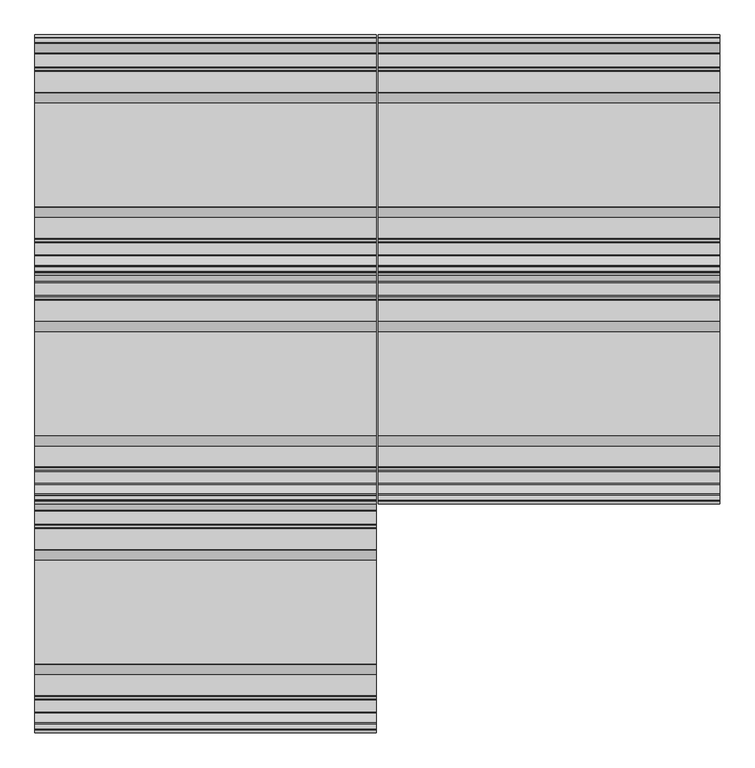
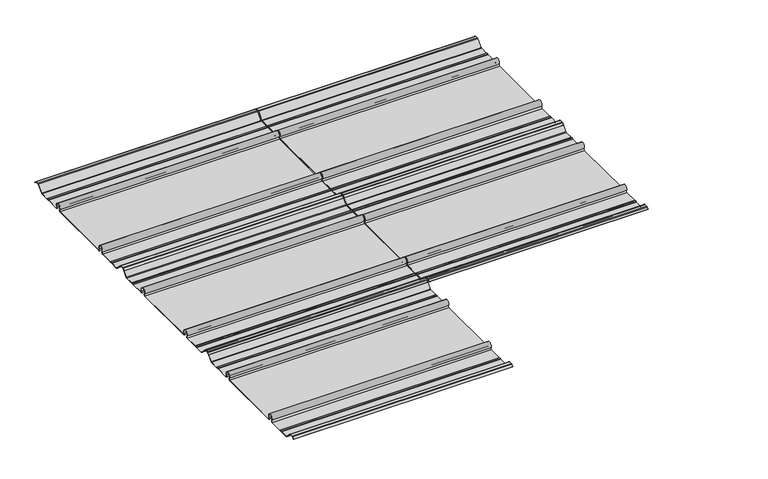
"""IFC4 building model written with IfcOpenShell, lengths in millimetres: proxy geometry, Xlath : Xlath."""

import ifcopenshell
import ifcopenshell.guid

model = None  # the IFC model being written
_history = None  # IfcOwnerHistory: only IFC2X3 demands one
_inside = {}  # id of a spatial element -> (the spatial element, [elements in it])
_under = {}  # id of a project, library or spatial element -> (it, [spatial elements below it])
_declared = {}  # id of a project -> (the project, [libraries it declares])
_typed = {}  # id of a type object -> (the type object, [elements of that type])
_made_of = {}  # id of a material, layer set ... -> (it, [elements and type objects made of it])


def new_model(schema):
    """Start an empty IFC model of exactly this schema.

    Asked for "IFC4X3", IfcOpenShell would pick the latest addendum, in which some entities
    have other attributes; the version numbers below select the first issue.
    IFC2X3 requires an IfcOwnerHistory on every rooted entity: one is made here for all.
    """
    global model, _history
    if schema == "IFC4X3":
        model = ifcopenshell.file(schema_version=(4, 3, 0, 0))
    else:
        model = ifcopenshell.file(schema=schema)
    _inside.clear()
    _under.clear()
    _declared.clear()
    _typed.clear()
    _made_of.clear()
    _history = None
    if model.schema == "IFC2X3":
        org = make("IfcOrganization", Name="unknown")
        user = make(
            "IfcPersonAndOrganization",
            ThePerson=make("IfcPerson", FamilyName="unknown"),
            TheOrganization=org,
        )
        app = make(
            "IfcApplication",
            ApplicationDeveloper=org,
            Version="unknown",
            ApplicationFullName="unknown",
            ApplicationIdentifier="unknown",
        )
        _history = make(
            "IfcOwnerHistory",
            OwningUser=user,
            OwningApplication=app,
            ChangeAction="ADDED",
            CreationDate=0,
        )
    return model


def make(cls, **values):
    """One entity of the class cls with the attributes given. An attribute that is None is left unset."""
    return model.create_entity(
        cls, **{name: value for name, value in values.items() if value is not None}
    )


def rooted(cls, **values):
    """An entity with a GlobalId (a new one), such as an element, a storey or a relation."""
    return make(cls, GlobalId=ifcopenshell.guid.new(), OwnerHistory=_history, **values)


def si_unit(unit_type, name, prefix=None):
    """IfcSIUnit, for example si_unit("LENGTHUNIT", "METRE", prefix="MILLI")."""
    return make("IfcSIUnit", UnitType=unit_type, Prefix=prefix, Name=name)


def assignment(units):
    """IfcUnitAssignment: the units of a project."""
    return None if units is None else make("IfcUnitAssignment", Units=units)


def point(xyz):
    """IfcCartesianPoint."""
    return None if xyz is None else make("IfcCartesianPoint", Coordinates=xyz)


def direction(xyz):
    """IfcDirection."""
    return None if xyz is None else make("IfcDirection", DirectionRatios=xyz)


def frame(location, z_axis=None, x_axis=None):
    """IfcAxis2Placement3D, a coordinate frame: its origin and axes. An axis left out is left unset."""
    return make(
        "IfcAxis2Placement3D",
        Location=point(location),
        Axis=direction(z_axis),
        RefDirection=direction(x_axis),
    )


def frame_2d(location, x_axis=None):
    """IfcAxis2Placement2D, a coordinate frame in the plane: its origin and x axis."""
    return make(
        "IfcAxis2Placement2D", Location=point(location), RefDirection=direction(x_axis)
    )


def origin():
    """The frame at (0, 0, 0) with its axes left unset."""
    return frame((0.0, 0.0, 0.0))


def place(relative_to, where):
    """IfcLocalPlacement: puts the frame where relative to a parent placement (None: the world)."""
    return make(
        "IfcLocalPlacement", PlacementRelTo=relative_to, RelativePlacement=where
    )


def context(
    kind, dimensions, precision=None, world=None, true_north=None, identifier=None
):
    """IfcGeometricRepresentationContext, for example the 3D "Model" context."""
    return make(
        "IfcGeometricRepresentationContext",
        ContextIdentifier=identifier,
        ContextType=kind,
        CoordinateSpaceDimension=dimensions,
        Precision=precision,
        WorldCoordinateSystem=world,
        TrueNorth=true_north,
    )


def project(units=None, contexts=None):
    """IfcProject with its units and contexts."""
    return rooted(
        "IfcProject",
        Name="project",
        RepresentationContexts=contexts,
        UnitsInContext=assignment(units),
    )


def spatial(cls, under=None, at=None, **own):
    """A site, building, storey or space (cls), placed at a placement, below another one or the project."""
    s = rooted(cls, ObjectPlacement=at, **own)
    if under is not None:
        _under.setdefault(under.id(), (under, []))[1].append(s)
    return s


def polyline(points):
    """IfcPolyline through the points."""
    return make("IfcPolyline", Points=[point(p) for p in points])


def circle_curve(where, radius):
    """IfcCircle in the frame where."""
    return make("IfcCircle", Position=where, Radius=radius)


def trimmed(basis, trim1, trim2, sense, master):
    """IfcTrimmedCurve: the piece of a basis curve between two trims."""
    return make(
        "IfcTrimmedCurve",
        BasisCurve=basis,
        Trim1=trim1,
        Trim2=trim2,
        SenseAgreement=sense,
        MasterRepresentation=master,
    )


def segment(curve, same_sense, transition):
    """IfcCompositeCurveSegment."""
    return make(
        "IfcCompositeCurveSegment",
        Transition=transition,
        SameSense=same_sense,
        ParentCurve=curve,
    )


def composite_curve(segments, self_intersect=None):
    """IfcCompositeCurve: segments joined end to end."""
    return make("IfcCompositeCurve", Segments=segments, SelfIntersect=self_intersect)


def outline(outer, holes=None, kind="AREA"):
    """IfcArbitraryClosedProfileDef: a profile drawn as a closed curve; with holes, ...WithVoids."""
    if holes is None:
        return make("IfcArbitraryClosedProfileDef", ProfileType=kind, OuterCurve=outer)
    return make(
        "IfcArbitraryProfileDefWithVoids",
        ProfileType=kind,
        OuterCurve=outer,
        InnerCurves=holes,
    )


def extrude(swept, where, along, depth):
    """IfcExtrudedAreaSolid: the profile swept, set in the frame where, extruded along a direction by depth."""
    return make(
        "IfcExtrudedAreaSolid",
        SweptArea=swept,
        Position=where,
        ExtrudedDirection=direction(along),
        Depth=depth,
    )


def shape(context_of_items, identifier, shape_type, items):
    """IfcShapeRepresentation: the items that make up one representation, for example the "Body"."""
    return make(
        "IfcShapeRepresentation",
        ContextOfItems=context_of_items,
        RepresentationIdentifier=identifier,
        RepresentationType=shape_type,
        Items=items,
    )


def source(mapping_origin, context_of_items, identifier, shape_type, items):
    """IfcRepresentationMap: a shape defined once, which mapped items show again and again."""
    return make(
        "IfcRepresentationMap",
        MappingOrigin=mapping_origin,
        MappedRepresentation=shape(context_of_items, identifier, shape_type, items),
    )


def transform(
    local_origin,
    x_axis=None,
    y_axis=None,
    z_axis=None,
    scale=None,
    scale2=None,
    scale3=None,
    uniform=True,
):
    """IfcCartesianTransformationOperator3D, or its non-uniform kind. x_axis, y_axis, z_axis: its Axis1, 2, 3."""
    if uniform:
        return make(
            "IfcCartesianTransformationOperator3D",
            Axis1=direction(x_axis),
            Axis2=direction(y_axis),
            LocalOrigin=point(local_origin),
            Scale=scale,
            Axis3=direction(z_axis),
        )
    return make(
        "IfcCartesianTransformationOperator3DnonUniform",
        Axis1=direction(x_axis),
        Axis2=direction(y_axis),
        LocalOrigin=point(local_origin),
        Scale=scale,
        Axis3=direction(z_axis),
        Scale2=scale2,
        Scale3=scale3,
    )


def mapped(mapping_source, mapping_target):
    """IfcMappedItem: shows the shape of a source again, moved by a transform."""
    return make(
        "IfcMappedItem", MappingSource=mapping_source, MappingTarget=mapping_target
    )


def made_of(thing, what):
    """Note that an element or type object is made of a material, layer set ...; save() writes the relation."""
    if what is not None:
        _made_of.setdefault(what.id(), (what, []))[1].append(thing)
    return thing


def element(
    cls,
    number,
    at=None,
    inside=None,
    cuts=None,
    type_object=None,
    material=None,
    context=None,
    identifier="Body",
    shape_type=None,
    held_by="IfcProductDefinitionShape",
    body=None,
    shapes=None,
    **own,
):
    """One element of the class cls, such as IfcWall. Its Tag is "e" and its number.

    at: its placement. inside: the storey or other place that contains it. cuts: it is an
    opening in that element (IfcRelVoidsElement). A single representation is given by context,
    identifier, shape_type and body (its items); several are given by shapes. held_by: the class
    of the entity that holds the representations. save() writes the other relations.
    """
    e = rooted(cls, Tag="e%d" % number, ObjectPlacement=at, **own)
    if body is not None:
        shapes = [shape(context, identifier, shape_type, body)]
    if shapes is not None:
        e.Representation = make(held_by, Representations=shapes)
    if inside is not None:
        _inside.setdefault(inside.id(), (inside, []))[1].append(e)
    if cuts is not None:
        rooted(
            "IfcRelVoidsElement", RelatingBuildingElement=cuts, RelatedOpeningElement=e
        )
    if type_object is not None:
        _typed.setdefault(type_object.id(), (type_object, []))[1].append(e)
    return made_of(e, material)


def aggregate(whole, parts):
    """IfcRelAggregates: a whole, such as a stair, and the parts it consists of."""
    return rooted("IfcRelAggregates", RelatingObject=whole, RelatedObjects=parts)


def save(model, path):
    """Write the relations noted so far, then the file.

    IfcRelAggregates (storeys below a building ...), IfcRelContainedInSpatialStructure (elements
    in a storey), IfcRelDefinesByType, IfcRelAssociatesMaterial and IfcRelDeclares: one each for
    every whole, place, type object, material and project.
    """
    for whole, parts in _under.values():
        aggregate(whole, parts)
    for where, things in _inside.values():
        rooted(
            "IfcRelContainedInSpatialStructure",
            RelatedElements=things,
            RelatingStructure=where,
        )
    for kind, things in _typed.values():
        rooted("IfcRelDefinesByType", RelatedObjects=things, RelatingType=kind)
    for what, things in _made_of.values():
        rooted("IfcRelAssociatesMaterial", RelatedObjects=things, RelatingMaterial=what)
    for by, libraries in _declared.values():
        rooted("IfcRelDeclares", RelatingContext=by, RelatedDefinitions=libraries)
    model.write(path)


def generic_models_4c27de46(model_context):
    return source(origin(), model_context, "Body", "SweptSolid", [
        extrude(outline(composite_curve([segment(polyline([(-816.821536, 17.692427), (-812.8, 13.8209287), (-813.3628134, 13.2581153), (-817.6173305, 17.3539026)]), True, "CONTINUOUS"), segment(trimmed(circle_curve(frame_2d((-819.4934261, 15.4051)), 2.7051), [point((-817.6173305, 17.3539026))], [point((-819.4934261, 18.1102))], True, "CARTESIAN"), True, "CONTINUOUS"), segment(polyline([(-819.4934261, 18.1102), (-826.6817457, 18.1102)]), True, "CONTINUOUS"), segment(trimmed(circle_curve(frame_2d((-826.6817457, 15.4051)), 2.7051), [point((-826.6817457, 18.1102))], [point((-828.6059623, 17.3064039))], True, "CARTESIAN"), True, "CONTINUOUS"), segment(polyline([(-828.6059623, 17.3064039), (-844.7741011, 0.9434226)]), True, "CONTINUOUS"), segment(trimmed(circle_curve(frame_2d((-847.0325712, 3.175)), 3.175), [point((-844.7741011, 0.9434226))], [point((-847.0325712, 0.0))], False, "CARTESIAN"), True, "CONTINUOUS"), segment(polyline([(-847.0325712, 0.0), (-870.1486405, 0.0)]), True, "CONTINUOUS"), segment(trimmed(circle_curve(frame_2d((-870.1486405, 3.175)), 3.175), [point((-870.1486405, 0.0))], [point((-872.1419174, 0.70367))], False, "CARTESIAN"), True, "CONTINUOUS"), segment(trimmed(circle_curve(frame_2d((-874.1351943, -1.7676601)), 3.175), [point((-872.1419174, 0.70367))], [point((-876.1284712, 0.70367))], True, "CARTESIAN"), True, "CONTINUOUS"), segment(trimmed(circle_curve(frame_2d((-878.1217481, 3.175)), 3.175), [point((-876.1284712, 0.70367))], [point((-878.1217481, 0.0))], False, "CARTESIAN"), True, "CONTINUOUS"), segment(polyline([(-878.1217481, 0.0), (-915.39972, 0.0)]), True, "CONTINUOUS"), segment(trimmed(circle_curve(frame_2d((-915.39972, 3.3362305)), 3.3362305), [point((-915.39972, 0.0))], [point((-918.0911698, 5.3076593))], False, "CARTESIAN"), True, "CONTINUOUS"), segment(trimmed(circle_curve(frame_2d((-924.6031627, 10.0775533)), 8.0720469), [point((-918.0911698, 5.3076593))], [point((-931.1151555, 5.3076593))], True, "CARTESIAN"), True, "CONTINUOUS"), segment(trimmed(circle_curve(frame_2d((-933.8066054, 3.3362305)), 3.3362305), [point((-931.1151555, 5.3076593))], [point((-933.8066054, 0.0))], False, "CARTESIAN"), True, "CONTINUOUS"), segment(polyline([(-933.8066054, 0.0), (-1118.8308946, 0.0)]), True, "CONTINUOUS"), segment(trimmed(circle_curve(frame_2d((-1118.8308946, 3.3362305)), 3.3362305), [point((-1118.8308946, 0.0))], [point((-1121.5223445, 5.3076593))], False, "CARTESIAN"), True, "CONTINUOUS"), segment(trimmed(circle_curve(frame_2d((-1128.0343373, 10.0775533)), 8.0720469), [point((-1121.5223445, 5.3076593))], [point((-1134.5463302, 5.3076593))], True, "CARTESIAN"), True, "CONTINUOUS"), segment(trimmed(circle_curve(frame_2d((-1137.23778, 3.3362305)), 3.3362305), [point((-1134.5463302, 5.3076593))], [point((-1137.23778, 0.0))], False, "CARTESIAN"), True, "CONTINUOUS"), segment(polyline([(-1137.23778, 0.0), (-1174.5157519, 0.0)]), True, "CONTINUOUS"), segment(trimmed(circle_curve(frame_2d((-1174.5157519, 3.175)), 3.175), [point((-1174.5157519, 0.0))], [point((-1176.5090288, 0.70367))], False, "CARTESIAN"), True, "CONTINUOUS"), segment(trimmed(circle_curve(frame_2d((-1178.5023057, -1.7676601)), 3.175), [point((-1176.5090288, 0.70367))], [point((-1180.4955826, 0.70367))], True, "CARTESIAN"), True, "CONTINUOUS"), segment(trimmed(circle_curve(frame_2d((-1182.4888595, 3.175)), 3.175), [point((-1180.4955826, 0.70367))], [point((-1182.4888595, 0.0))], False, "CARTESIAN"), True, "CONTINUOUS"), segment(polyline([(-1182.4888595, 0.0), (-1203.8183557, 0.0)]), True, "CONTINUOUS"), segment(trimmed(circle_curve(frame_2d((-1203.8183557, 3.175)), 3.175), [point((-1203.8183557, 0.0))], [point((-1206.0768259, 0.9434226))], False, "CARTESIAN"), True, "CONTINUOUS"), segment(polyline([(-1206.0768259, 0.9434226), (-1222.7092693, 17.7763039)]), True, "CONTINUOUS"), segment(trimmed(circle_curve(frame_2d((-1224.6334859, 15.875)), 2.7051), [point((-1222.7092693, 17.7763039))], [point((-1224.6334859, 18.5801))], True, "CARTESIAN"), True, "CONTINUOUS"), segment(polyline([(-1224.6334859, 18.5801), (-1233.1440739, 18.5801)]), True, "CONTINUOUS"), segment(trimmed(circle_curve(frame_2d((-1233.1440739, 15.875)), 2.7051), [point((-1233.1440739, 18.5801))], [point((-1235.0201695, 17.8238026))], True, "CARTESIAN"), True, "CONTINUOUS"), segment(polyline([(-1235.0201695, 17.8238026), (-1239.2855845, 13.717524), (-1239.8483979, 14.2803374), (-1235.815964, 18.162327)]), True, "CONTINUOUS"), segment(trimmed(circle_curve(frame_2d((-1233.6139739, 15.875)), 3.175), [point((-1235.815964, 18.162327))], [point((-1233.6139739, 19.05))], False, "CARTESIAN"), True, "CONTINUOUS"), segment(polyline([(-1233.6139739, 19.05), (-1224.6334859, 19.05)]), True, "CONTINUOUS"), segment(trimmed(circle_curve(frame_2d((-1224.6334859, 15.875)), 3.175), [point((-1224.6334859, 19.05))], [point((-1222.3750157, 18.1065774))], False, "CARTESIAN"), True, "CONTINUOUS"), segment(polyline([(-1222.3750157, 18.1065774), (-1205.7425723, 1.2736961)]), True, "CONTINUOUS"), segment(trimmed(circle_curve(frame_2d((-1203.8183557, 3.175)), 2.7051), [point((-1205.7425723, 1.2736961))], [point((-1203.8183557, 0.4699))], True, "CARTESIAN"), True, "CONTINUOUS"), segment(polyline([(-1203.8183557, 0.4699), (-1182.6514296, 0.4699)]), True, "CONTINUOUS"), segment(trimmed(circle_curve(frame_2d((-1182.6514296, 3.6449)), 3.175), [point((-1182.6514296, 0.4699))], [point((-1180.7198077, 1.1250862))], True, "CARTESIAN"), True, "CONTINUOUS"), segment(trimmed(circle_curve(frame_2d((-1178.5023057, -1.7676601)), 3.6449), [point((-1180.7198077, 1.1250862))], [point((-1176.2848037, 1.1250862))], False, "CARTESIAN"), True, "CONTINUOUS"), segment(trimmed(circle_curve(frame_2d((-1174.3531818, 3.6449)), 3.175), [point((-1176.2848037, 1.1250862))], [point((-1174.3531818, 0.4699))], True, "CARTESIAN"), True, "CONTINUOUS"), segment(polyline([(-1174.3531818, 0.4699), (-1137.23778, 0.4699)]), True, "CONTINUOUS"), segment(trimmed(circle_curve(frame_2d((-1137.23778, 3.3362305)), 2.8663305), [point((-1137.23778, 0.4699))], [point((-1134.9254144, 5.0299883))], True, "CARTESIAN"), True, "CONTINUOUS"), segment(trimmed(circle_curve(frame_2d((-1128.0343373, 10.0775533)), 8.5419469), [point((-1134.9254144, 5.0299883))], [point((-1121.1432603, 5.0299883))], False, "CARTESIAN"), True, "CONTINUOUS"), segment(trimmed(circle_curve(frame_2d((-1118.8308946, 3.3362305)), 2.8663305), [point((-1121.1432603, 5.0299883))], [point((-1118.8308946, 0.4699))], True, "CARTESIAN"), True, "CONTINUOUS"), segment(polyline([(-1118.8308946, 0.4699), (-933.8066054, 0.4699)]), True, "CONTINUOUS"), segment(trimmed(circle_curve(frame_2d((-933.8066054, 3.3362305)), 2.8663305), [point((-933.8066054, 0.4699))], [point((-931.4942397, 5.0299883))], True, "CARTESIAN"), True, "CONTINUOUS"), segment(trimmed(circle_curve(frame_2d((-924.6031627, 10.0775533)), 8.5419469), [point((-931.4942397, 5.0299883))], [point((-917.7120856, 5.0299883))], False, "CARTESIAN"), True, "CONTINUOUS"), segment(trimmed(circle_curve(frame_2d((-915.39972, 3.3362305)), 2.8663305), [point((-917.7120856, 5.0299883))], [point((-915.39972, 0.4699))], True, "CARTESIAN"), True, "CONTINUOUS"), segment(polyline([(-915.39972, 0.4699), (-878.2843182, 0.4699)]), True, "CONTINUOUS"), segment(trimmed(circle_curve(frame_2d((-878.2843182, 3.6449)), 3.175), [point((-878.2843182, 0.4699))], [point((-876.3526963, 1.1250862))], True, "CARTESIAN"), True, "CONTINUOUS"), segment(trimmed(circle_curve(frame_2d((-874.1351943, -1.7676601)), 3.6449), [point((-876.3526963, 1.1250862))], [point((-871.9176923, 1.1250862))], False, "CARTESIAN"), True, "CONTINUOUS"), segment(trimmed(circle_curve(frame_2d((-869.9860704, 3.6449)), 3.175), [point((-871.9176923, 1.1250862))], [point((-869.9860704, 0.4699))], True, "CARTESIAN"), True, "CONTINUOUS"), segment(polyline([(-869.9860704, 0.4699), (-847.0325712, 0.4699)]), True, "CONTINUOUS"), segment(trimmed(circle_curve(frame_2d((-847.0325712, 3.175)), 2.7051), [point((-847.0325712, 0.4699))], [point((-845.1083547, 1.2736961))], True, "CARTESIAN"), True, "CONTINUOUS"), segment(polyline([(-845.1083547, 1.2736961), (-828.9402159, 17.6366774)]), True, "CONTINUOUS"), segment(trimmed(circle_curve(frame_2d((-826.6817457, 15.4051)), 3.175), [point((-828.9402159, 17.6366774))], [point((-826.6817457, 18.5801))], False, "CARTESIAN"), True, "CONTINUOUS"), segment(polyline([(-826.6817457, 18.5801), (-819.0235261, 18.5801)]), True, "CONTINUOUS"), segment(trimmed(circle_curve(frame_2d((-819.0235261, 15.4051)), 3.175), [point((-819.0235261, 18.5801))], [point((-816.821536, 17.692427))], False, "CARTESIAN"), True, "CONTINUOUS")], self_intersect=False)), frame((0.0, 0.0, 0.0), z_axis=(1.0, 0.0, 0.0), x_axis=(0.0, 1.0, 0.0)), (0.0, 0.0, 1.0), 606.425),
        extrude(outline(composite_curve([segment(polyline([(-410.421536, 17.692427), (-406.4, 13.8209287), (-406.9628134, 13.2581153), (-411.2173305, 17.3539026)]), True, "CONTINUOUS"), segment(trimmed(circle_curve(frame_2d((-413.0934261, 15.4051)), 2.7051), [point((-411.2173305, 17.3539026))], [point((-413.0934261, 18.1102))], True, "CARTESIAN"), True, "CONTINUOUS"), segment(polyline([(-413.0934261, 18.1102), (-420.2817457, 18.1102)]), True, "CONTINUOUS"), segment(trimmed(circle_curve(frame_2d((-420.2817457, 15.4051)), 2.7051), [point((-420.2817457, 18.1102))], [point((-422.2059623, 17.3064039))], True, "CARTESIAN"), True, "CONTINUOUS"), segment(polyline([(-422.2059623, 17.3064039), (-438.3741011, 0.9434226)]), True, "CONTINUOUS"), segment(trimmed(circle_curve(frame_2d((-440.6325712, 3.175)), 3.175), [point((-438.3741011, 0.9434226))], [point((-440.6325712, 0.0))], False, "CARTESIAN"), True, "CONTINUOUS"), segment(polyline([(-440.6325712, 0.0), (-463.7486405, 0.0)]), True, "CONTINUOUS"), segment(trimmed(circle_curve(frame_2d((-463.7486405, 3.175)), 3.175), [point((-463.7486405, 0.0))], [point((-465.7419174, 0.70367))], False, "CARTESIAN"), True, "CONTINUOUS"), segment(trimmed(circle_curve(frame_2d((-467.7351943, -1.7676601)), 3.175), [point((-465.7419174, 0.70367))], [point((-469.7284712, 0.70367))], True, "CARTESIAN"), True, "CONTINUOUS"), segment(trimmed(circle_curve(frame_2d((-471.7217481, 3.175)), 3.175), [point((-469.7284712, 0.70367))], [point((-471.7217481, 0.0))], False, "CARTESIAN"), True, "CONTINUOUS"), segment(polyline([(-471.7217481, 0.0), (-508.99972, 0.0)]), True, "CONTINUOUS"), segment(trimmed(circle_curve(frame_2d((-508.99972, 3.3362305)), 3.3362305), [point((-508.99972, 0.0))], [point((-511.6911698, 5.3076593))], False, "CARTESIAN"), True, "CONTINUOUS"), segment(trimmed(circle_curve(frame_2d((-518.2031627, 10.0775533)), 8.0720469), [point((-511.6911698, 5.3076593))], [point((-524.7151555, 5.3076593))], True, "CARTESIAN"), True, "CONTINUOUS"), segment(trimmed(circle_curve(frame_2d((-527.4066054, 3.3362305)), 3.3362305), [point((-524.7151555, 5.3076593))], [point((-527.4066054, 0.0))], False, "CARTESIAN"), True, "CONTINUOUS"), segment(polyline([(-527.4066054, 0.0), (-712.4308946, 0.0)]), True, "CONTINUOUS"), segment(trimmed(circle_curve(frame_2d((-712.4308946, 3.3362305)), 3.3362305), [point((-712.4308946, 0.0))], [point((-715.1223445, 5.3076593))], False, "CARTESIAN"), True, "CONTINUOUS"), segment(trimmed(circle_curve(frame_2d((-721.6343373, 10.0775533)), 8.0720469), [point((-715.1223445, 5.3076593))], [point((-728.1463302, 5.3076593))], True, "CARTESIAN"), True, "CONTINUOUS"), segment(trimmed(circle_curve(frame_2d((-730.83778, 3.3362305)), 3.3362305), [point((-728.1463302, 5.3076593))], [point((-730.83778, 0.0))], False, "CARTESIAN"), True, "CONTINUOUS"), segment(polyline([(-730.83778, 0.0), (-768.1157519, 0.0)]), True, "CONTINUOUS"), segment(trimmed(circle_curve(frame_2d((-768.1157519, 3.175)), 3.175), [point((-768.1157519, 0.0))], [point((-770.1090288, 0.70367))], False, "CARTESIAN"), True, "CONTINUOUS"), segment(trimmed(circle_curve(frame_2d((-772.1023057, -1.7676601)), 3.175), [point((-770.1090288, 0.70367))], [point((-774.0955826, 0.70367))], True, "CARTESIAN"), True, "CONTINUOUS"), segment(trimmed(circle_curve(frame_2d((-776.0888595, 3.175)), 3.175), [point((-774.0955826, 0.70367))], [point((-776.0888595, 0.0))], False, "CARTESIAN"), True, "CONTINUOUS"), segment(polyline([(-776.0888595, 0.0), (-797.4183557, 0.0)]), True, "CONTINUOUS"), segment(trimmed(circle_curve(frame_2d((-797.4183557, 3.175)), 3.175), [point((-797.4183557, 0.0))], [point((-799.6768259, 0.9434226))], False, "CARTESIAN"), True, "CONTINUOUS"), segment(polyline([(-799.6768259, 0.9434226), (-816.3092693, 17.7763039)]), True, "CONTINUOUS"), segment(trimmed(circle_curve(frame_2d((-818.2334859, 15.875)), 2.7051), [point((-816.3092693, 17.7763039))], [point((-818.2334859, 18.5801))], True, "CARTESIAN"), True, "CONTINUOUS"), segment(polyline([(-818.2334859, 18.5801), (-826.7440739, 18.5801)]), True, "CONTINUOUS"), segment(trimmed(circle_curve(frame_2d((-826.7440739, 15.875)), 2.7051), [point((-826.7440739, 18.5801))], [point((-828.6201695, 17.8238026))], True, "CARTESIAN"), True, "CONTINUOUS"), segment(polyline([(-828.6201695, 17.8238026), (-832.8855845, 13.717524), (-833.4483979, 14.2803374), (-829.415964, 18.162327)]), True, "CONTINUOUS"), segment(trimmed(circle_curve(frame_2d((-827.2139739, 15.875)), 3.175), [point((-829.415964, 18.162327))], [point((-827.2139739, 19.05))], False, "CARTESIAN"), True, "CONTINUOUS"), segment(polyline([(-827.2139739, 19.05), (-818.2334859, 19.05)]), True, "CONTINUOUS"), segment(trimmed(circle_curve(frame_2d((-818.2334859, 15.875)), 3.175), [point((-818.2334859, 19.05))], [point((-815.9750157, 18.1065774))], False, "CARTESIAN"), True, "CONTINUOUS"), segment(polyline([(-815.9750157, 18.1065774), (-799.3425723, 1.2736961)]), True, "CONTINUOUS"), segment(trimmed(circle_curve(frame_2d((-797.4183557, 3.175)), 2.7051), [point((-799.3425723, 1.2736961))], [point((-797.4183557, 0.4699))], True, "CARTESIAN"), True, "CONTINUOUS"), segment(polyline([(-797.4183557, 0.4699), (-776.2514296, 0.4699)]), True, "CONTINUOUS"), segment(trimmed(circle_curve(frame_2d((-776.2514296, 3.6449)), 3.175), [point((-776.2514296, 0.4699))], [point((-774.3198077, 1.1250862))], True, "CARTESIAN"), True, "CONTINUOUS"), segment(trimmed(circle_curve(frame_2d((-772.1023057, -1.7676601)), 3.6449), [point((-774.3198077, 1.1250862))], [point((-769.8848037, 1.1250862))], False, "CARTESIAN"), True, "CONTINUOUS"), segment(trimmed(circle_curve(frame_2d((-767.9531818, 3.6449)), 3.175), [point((-769.8848037, 1.1250862))], [point((-767.9531818, 0.4699))], True, "CARTESIAN"), True, "CONTINUOUS"), segment(polyline([(-767.9531818, 0.4699), (-730.83778, 0.4699)]), True, "CONTINUOUS"), segment(trimmed(circle_curve(frame_2d((-730.83778, 3.3362305)), 2.8663305), [point((-730.83778, 0.4699))], [point((-728.5254144, 5.0299883))], True, "CARTESIAN"), True, "CONTINUOUS"), segment(trimmed(circle_curve(frame_2d((-721.6343373, 10.0775533)), 8.5419469), [point((-728.5254144, 5.0299883))], [point((-714.7432603, 5.0299883))], False, "CARTESIAN"), True, "CONTINUOUS"), segment(trimmed(circle_curve(frame_2d((-712.4308946, 3.3362305)), 2.8663305), [point((-714.7432603, 5.0299883))], [point((-712.4308946, 0.4699))], True, "CARTESIAN"), True, "CONTINUOUS"), segment(polyline([(-712.4308946, 0.4699), (-527.4066054, 0.4699)]), True, "CONTINUOUS"), segment(trimmed(circle_curve(frame_2d((-527.4066054, 3.3362305)), 2.8663305), [point((-527.4066054, 0.4699))], [point((-525.0942397, 5.0299883))], True, "CARTESIAN"), True, "CONTINUOUS"), segment(trimmed(circle_curve(frame_2d((-518.2031627, 10.0775533)), 8.5419469), [point((-525.0942397, 5.0299883))], [point((-511.3120856, 5.0299883))], False, "CARTESIAN"), True, "CONTINUOUS"), segment(trimmed(circle_curve(frame_2d((-508.99972, 3.3362305)), 2.8663305), [point((-511.3120856, 5.0299883))], [point((-508.99972, 0.4699))], True, "CARTESIAN"), True, "CONTINUOUS"), segment(polyline([(-508.99972, 0.4699), (-471.8843182, 0.4699)]), True, "CONTINUOUS"), segment(trimmed(circle_curve(frame_2d((-471.8843182, 3.6449)), 3.175), [point((-471.8843182, 0.4699))], [point((-469.9526963, 1.1250862))], True, "CARTESIAN"), True, "CONTINUOUS"), segment(trimmed(circle_curve(frame_2d((-467.7351943, -1.7676601)), 3.6449), [point((-469.9526963, 1.1250862))], [point((-465.5176923, 1.1250862))], False, "CARTESIAN"), True, "CONTINUOUS"), segment(trimmed(circle_curve(frame_2d((-463.5860704, 3.6449)), 3.175), [point((-465.5176923, 1.1250862))], [point((-463.5860704, 0.4699))], True, "CARTESIAN"), True, "CONTINUOUS"), segment(polyline([(-463.5860704, 0.4699), (-440.6325712, 0.4699)]), True, "CONTINUOUS"), segment(trimmed(circle_curve(frame_2d((-440.6325712, 3.175)), 2.7051), [point((-440.6325712, 0.4699))], [point((-438.7083547, 1.2736961))], True, "CARTESIAN"), True, "CONTINUOUS"), segment(polyline([(-438.7083547, 1.2736961), (-422.5402159, 17.6366774)]), True, "CONTINUOUS"), segment(trimmed(circle_curve(frame_2d((-420.2817457, 15.4051)), 3.175), [point((-422.5402159, 17.6366774))], [point((-420.2817457, 18.5801))], False, "CARTESIAN"), True, "CONTINUOUS"), segment(polyline([(-420.2817457, 18.5801), (-412.6235261, 18.5801)]), True, "CONTINUOUS"), segment(trimmed(circle_curve(frame_2d((-412.6235261, 15.4051)), 3.175), [point((-412.6235261, 18.5801))], [point((-410.421536, 17.692427))], False, "CARTESIAN"), True, "CONTINUOUS")], self_intersect=False)), frame((609.6, 0.0, 0.0), z_axis=(1.0, 0.0, 0.0), x_axis=(0.0, 1.0, 0.0)), (0.0, 0.0, 1.0), 606.425),
        extrude(outline(composite_curve([segment(polyline([(-410.421536, 17.692427), (-406.4, 13.8209287), (-406.9628134, 13.2581153), (-411.2173305, 17.3539026)]), True, "CONTINUOUS"), segment(trimmed(circle_curve(frame_2d((-413.0934261, 15.4051)), 2.7051), [point((-411.2173305, 17.3539026))], [point((-413.0934261, 18.1102))], True, "CARTESIAN"), True, "CONTINUOUS"), segment(polyline([(-413.0934261, 18.1102), (-420.2817457, 18.1102)]), True, "CONTINUOUS"), segment(trimmed(circle_curve(frame_2d((-420.2817457, 15.4051)), 2.7051), [point((-420.2817457, 18.1102))], [point((-422.2059623, 17.3064039))], True, "CARTESIAN"), True, "CONTINUOUS"), segment(polyline([(-422.2059623, 17.3064039), (-438.3741011, 0.9434226)]), True, "CONTINUOUS"), segment(trimmed(circle_curve(frame_2d((-440.6325712, 3.175)), 3.175), [point((-438.3741011, 0.9434226))], [point((-440.6325712, 0.0))], False, "CARTESIAN"), True, "CONTINUOUS"), segment(polyline([(-440.6325712, 0.0), (-463.7486405, 0.0)]), True, "CONTINUOUS"), segment(trimmed(circle_curve(frame_2d((-463.7486405, 3.175)), 3.175), [point((-463.7486405, 0.0))], [point((-465.7419174, 0.70367))], False, "CARTESIAN"), True, "CONTINUOUS"), segment(trimmed(circle_curve(frame_2d((-467.7351943, -1.7676601)), 3.175), [point((-465.7419174, 0.70367))], [point((-469.7284712, 0.70367))], True, "CARTESIAN"), True, "CONTINUOUS"), segment(trimmed(circle_curve(frame_2d((-471.7217481, 3.175)), 3.175), [point((-469.7284712, 0.70367))], [point((-471.7217481, 0.0))], False, "CARTESIAN"), True, "CONTINUOUS"), segment(polyline([(-471.7217481, 0.0), (-508.99972, 0.0)]), True, "CONTINUOUS"), segment(trimmed(circle_curve(frame_2d((-508.99972, 3.3362305)), 3.3362305), [point((-508.99972, 0.0))], [point((-511.6911698, 5.3076593))], False, "CARTESIAN"), True, "CONTINUOUS"), segment(trimmed(circle_curve(frame_2d((-518.2031627, 10.0775533)), 8.0720469), [point((-511.6911698, 5.3076593))], [point((-524.7151555, 5.3076593))], True, "CARTESIAN"), True, "CONTINUOUS"), segment(trimmed(circle_curve(frame_2d((-527.4066054, 3.3362305)), 3.3362305), [point((-524.7151555, 5.3076593))], [point((-527.4066054, 0.0))], False, "CARTESIAN"), True, "CONTINUOUS"), segment(polyline([(-527.4066054, 0.0), (-712.4308946, 0.0)]), True, "CONTINUOUS"), segment(trimmed(circle_curve(frame_2d((-712.4308946, 3.3362305)), 3.3362305), [point((-712.4308946, 0.0))], [point((-715.1223445, 5.3076593))], False, "CARTESIAN"), True, "CONTINUOUS"), segment(trimmed(circle_curve(frame_2d((-721.6343373, 10.0775533)), 8.0720469), [point((-715.1223445, 5.3076593))], [point((-728.1463302, 5.3076593))], True, "CARTESIAN"), True, "CONTINUOUS"), segment(trimmed(circle_curve(frame_2d((-730.83778, 3.3362305)), 3.3362305), [point((-728.1463302, 5.3076593))], [point((-730.83778, 0.0))], False, "CARTESIAN"), True, "CONTINUOUS"), segment(polyline([(-730.83778, 0.0), (-768.1157519, 0.0)]), True, "CONTINUOUS"), segment(trimmed(circle_curve(frame_2d((-768.1157519, 3.175)), 3.175), [point((-768.1157519, 0.0))], [point((-770.1090288, 0.70367))], False, "CARTESIAN"), True, "CONTINUOUS"), segment(trimmed(circle_curve(frame_2d((-772.1023057, -1.7676601)), 3.175), [point((-770.1090288, 0.70367))], [point((-774.0955826, 0.70367))], True, "CARTESIAN"), True, "CONTINUOUS"), segment(trimmed(circle_curve(frame_2d((-776.0888595, 3.175)), 3.175), [point((-774.0955826, 0.70367))], [point((-776.0888595, 0.0))], False, "CARTESIAN"), True, "CONTINUOUS"), segment(polyline([(-776.0888595, 0.0), (-797.4183557, 0.0)]), True, "CONTINUOUS"), segment(trimmed(circle_curve(frame_2d((-797.4183557, 3.175)), 3.175), [point((-797.4183557, 0.0))], [point((-799.6768259, 0.9434226))], False, "CARTESIAN"), True, "CONTINUOUS"), segment(polyline([(-799.6768259, 0.9434226), (-816.3092693, 17.7763039)]), True, "CONTINUOUS"), segment(trimmed(circle_curve(frame_2d((-818.2334859, 15.875)), 2.7051), [point((-816.3092693, 17.7763039))], [point((-818.2334859, 18.5801))], True, "CARTESIAN"), True, "CONTINUOUS"), segment(polyline([(-818.2334859, 18.5801), (-826.7440739, 18.5801)]), True, "CONTINUOUS"), segment(trimmed(circle_curve(frame_2d((-826.7440739, 15.875)), 2.7051), [point((-826.7440739, 18.5801))], [point((-828.6201695, 17.8238026))], True, "CARTESIAN"), True, "CONTINUOUS"), segment(polyline([(-828.6201695, 17.8238026), (-832.8855845, 13.717524), (-833.4483979, 14.2803374), (-829.415964, 18.162327)]), True, "CONTINUOUS"), segment(trimmed(circle_curve(frame_2d((-827.2139739, 15.875)), 3.175), [point((-829.415964, 18.162327))], [point((-827.2139739, 19.05))], False, "CARTESIAN"), True, "CONTINUOUS"), segment(polyline([(-827.2139739, 19.05), (-818.2334859, 19.05)]), True, "CONTINUOUS"), segment(trimmed(circle_curve(frame_2d((-818.2334859, 15.875)), 3.175), [point((-818.2334859, 19.05))], [point((-815.9750157, 18.1065774))], False, "CARTESIAN"), True, "CONTINUOUS"), segment(polyline([(-815.9750157, 18.1065774), (-799.3425723, 1.2736961)]), True, "CONTINUOUS"), segment(trimmed(circle_curve(frame_2d((-797.4183557, 3.175)), 2.7051), [point((-799.3425723, 1.2736961))], [point((-797.4183557, 0.4699))], True, "CARTESIAN"), True, "CONTINUOUS"), segment(polyline([(-797.4183557, 0.4699), (-776.2514296, 0.4699)]), True, "CONTINUOUS"), segment(trimmed(circle_curve(frame_2d((-776.2514296, 3.6449)), 3.175), [point((-776.2514296, 0.4699))], [point((-774.3198077, 1.1250862))], True, "CARTESIAN"), True, "CONTINUOUS"), segment(trimmed(circle_curve(frame_2d((-772.1023057, -1.7676601)), 3.6449), [point((-774.3198077, 1.1250862))], [point((-769.8848037, 1.1250862))], False, "CARTESIAN"), True, "CONTINUOUS"), segment(trimmed(circle_curve(frame_2d((-767.9531818, 3.6449)), 3.175), [point((-769.8848037, 1.1250862))], [point((-767.9531818, 0.4699))], True, "CARTESIAN"), True, "CONTINUOUS"), segment(polyline([(-767.9531818, 0.4699), (-730.83778, 0.4699)]), True, "CONTINUOUS"), segment(trimmed(circle_curve(frame_2d((-730.83778, 3.3362305)), 2.8663305), [point((-730.83778, 0.4699))], [point((-728.5254144, 5.0299883))], True, "CARTESIAN"), True, "CONTINUOUS"), segment(trimmed(circle_curve(frame_2d((-721.6343373, 10.0775533)), 8.5419469), [point((-728.5254144, 5.0299883))], [point((-714.7432603, 5.0299883))], False, "CARTESIAN"), True, "CONTINUOUS"), segment(trimmed(circle_curve(frame_2d((-712.4308946, 3.3362305)), 2.8663305), [point((-714.7432603, 5.0299883))], [point((-712.4308946, 0.4699))], True, "CARTESIAN"), True, "CONTINUOUS"), segment(polyline([(-712.4308946, 0.4699), (-527.4066054, 0.4699)]), True, "CONTINUOUS"), segment(trimmed(circle_curve(frame_2d((-527.4066054, 3.3362305)), 2.8663305), [point((-527.4066054, 0.4699))], [point((-525.0942397, 5.0299883))], True, "CARTESIAN"), True, "CONTINUOUS"), segment(trimmed(circle_curve(frame_2d((-518.2031627, 10.0775533)), 8.5419469), [point((-525.0942397, 5.0299883))], [point((-511.3120856, 5.0299883))], False, "CARTESIAN"), True, "CONTINUOUS"), segment(trimmed(circle_curve(frame_2d((-508.99972, 3.3362305)), 2.8663305), [point((-511.3120856, 5.0299883))], [point((-508.99972, 0.4699))], True, "CARTESIAN"), True, "CONTINUOUS"), segment(polyline([(-508.99972, 0.4699), (-471.8843182, 0.4699)]), True, "CONTINUOUS"), segment(trimmed(circle_curve(frame_2d((-471.8843182, 3.6449)), 3.175), [point((-471.8843182, 0.4699))], [point((-469.9526963, 1.1250862))], True, "CARTESIAN"), True, "CONTINUOUS"), segment(trimmed(circle_curve(frame_2d((-467.7351943, -1.7676601)), 3.6449), [point((-469.9526963, 1.1250862))], [point((-465.5176923, 1.1250862))], False, "CARTESIAN"), True, "CONTINUOUS"), segment(trimmed(circle_curve(frame_2d((-463.5860704, 3.6449)), 3.175), [point((-465.5176923, 1.1250862))], [point((-463.5860704, 0.4699))], True, "CARTESIAN"), True, "CONTINUOUS"), segment(polyline([(-463.5860704, 0.4699), (-440.6325712, 0.4699)]), True, "CONTINUOUS"), segment(trimmed(circle_curve(frame_2d((-440.6325712, 3.175)), 2.7051), [point((-440.6325712, 0.4699))], [point((-438.7083547, 1.2736961))], True, "CARTESIAN"), True, "CONTINUOUS"), segment(polyline([(-438.7083547, 1.2736961), (-422.5402159, 17.6366774)]), True, "CONTINUOUS"), segment(trimmed(circle_curve(frame_2d((-420.2817457, 15.4051)), 3.175), [point((-422.5402159, 17.6366774))], [point((-420.2817457, 18.5801))], False, "CARTESIAN"), True, "CONTINUOUS"), segment(polyline([(-420.2817457, 18.5801), (-412.6235261, 18.5801)]), True, "CONTINUOUS"), segment(trimmed(circle_curve(frame_2d((-412.6235261, 15.4051)), 3.175), [point((-412.6235261, 18.5801))], [point((-410.421536, 17.692427))], False, "CARTESIAN"), True, "CONTINUOUS")], self_intersect=False)), frame((0.0, 0.0, 0.0), z_axis=(1.0, 0.0, 0.0), x_axis=(0.0, 1.0, 0.0)), (0.0, 0.0, 1.0), 606.425),
        extrude(outline(composite_curve([segment(polyline([(-4.021536, 17.692427), (0.0, 13.8209287), (-0.5628134, 13.2581153), (-4.8173305, 17.3539026)]), True, "CONTINUOUS"), segment(trimmed(circle_curve(frame_2d((-6.6934261, 15.4051)), 2.7051), [point((-4.8173305, 17.3539026))], [point((-6.6934261, 18.1102))], True, "CARTESIAN"), True, "CONTINUOUS"), segment(polyline([(-6.6934261, 18.1102), (-13.8817457, 18.1102)]), True, "CONTINUOUS"), segment(trimmed(circle_curve(frame_2d((-13.8817457, 15.4051)), 2.7051), [point((-13.8817457, 18.1102))], [point((-15.8059623, 17.3064039))], True, "CARTESIAN"), True, "CONTINUOUS"), segment(polyline([(-15.8059623, 17.3064039), (-31.9741011, 0.9434226)]), True, "CONTINUOUS"), segment(trimmed(circle_curve(frame_2d((-34.2325712, 3.175)), 3.175), [point((-31.9741011, 0.9434226))], [point((-34.2325712, 0.0))], False, "CARTESIAN"), True, "CONTINUOUS"), segment(polyline([(-34.2325712, 0.0), (-57.3486405, 0.0)]), True, "CONTINUOUS"), segment(trimmed(circle_curve(frame_2d((-57.3486405, 3.175)), 3.175), [point((-57.3486405, 0.0))], [point((-59.3419174, 0.70367))], False, "CARTESIAN"), True, "CONTINUOUS"), segment(trimmed(circle_curve(frame_2d((-61.3351943, -1.7676601)), 3.175), [point((-59.3419174, 0.70367))], [point((-63.3284712, 0.70367))], True, "CARTESIAN"), True, "CONTINUOUS"), segment(trimmed(circle_curve(frame_2d((-65.3217481, 3.175)), 3.175), [point((-63.3284712, 0.70367))], [point((-65.3217481, 0.0))], False, "CARTESIAN"), True, "CONTINUOUS"), segment(polyline([(-65.3217481, 0.0), (-102.59972, 0.0)]), True, "CONTINUOUS"), segment(trimmed(circle_curve(frame_2d((-102.59972, 3.3362305)), 3.3362305), [point((-102.59972, 0.0))], [point((-105.2911698, 5.3076593))], False, "CARTESIAN"), True, "CONTINUOUS"), segment(trimmed(circle_curve(frame_2d((-111.8031627, 10.0775533)), 8.0720469), [point((-105.2911698, 5.3076593))], [point((-118.3151555, 5.3076593))], True, "CARTESIAN"), True, "CONTINUOUS"), segment(trimmed(circle_curve(frame_2d((-121.0066054, 3.3362305)), 3.3362305), [point((-118.3151555, 5.3076593))], [point((-121.0066054, 0.0))], False, "CARTESIAN"), True, "CONTINUOUS"), segment(polyline([(-121.0066054, 0.0), (-306.0308946, 0.0)]), True, "CONTINUOUS"), segment(trimmed(circle_curve(frame_2d((-306.0308946, 3.3362305)), 3.3362305), [point((-306.0308946, 0.0))], [point((-308.7223445, 5.3076593))], False, "CARTESIAN"), True, "CONTINUOUS"), segment(trimmed(circle_curve(frame_2d((-315.2343373, 10.0775533)), 8.0720469), [point((-308.7223445, 5.3076593))], [point((-321.7463302, 5.3076593))], True, "CARTESIAN"), True, "CONTINUOUS"), segment(trimmed(circle_curve(frame_2d((-324.43778, 3.3362305)), 3.3362305), [point((-321.7463302, 5.3076593))], [point((-324.43778, 0.0))], False, "CARTESIAN"), True, "CONTINUOUS"), segment(polyline([(-324.43778, 0.0), (-361.7157519, 0.0)]), True, "CONTINUOUS"), segment(trimmed(circle_curve(frame_2d((-361.7157519, 3.175)), 3.175), [point((-361.7157519, 0.0))], [point((-363.7090288, 0.70367))], False, "CARTESIAN"), True, "CONTINUOUS"), segment(trimmed(circle_curve(frame_2d((-365.7023057, -1.7676601)), 3.175), [point((-363.7090288, 0.70367))], [point((-367.6955826, 0.70367))], True, "CARTESIAN"), True, "CONTINUOUS"), segment(trimmed(circle_curve(frame_2d((-369.6888595, 3.175)), 3.175), [point((-367.6955826, 0.70367))], [point((-369.6888595, 0.0))], False, "CARTESIAN"), True, "CONTINUOUS"), segment(polyline([(-369.6888595, 0.0), (-391.0183557, 0.0)]), True, "CONTINUOUS"), segment(trimmed(circle_curve(frame_2d((-391.0183557, 3.175)), 3.175), [point((-391.0183557, 0.0))], [point((-393.2768259, 0.9434226))], False, "CARTESIAN"), True, "CONTINUOUS"), segment(polyline([(-393.2768259, 0.9434226), (-409.9092693, 17.7763039)]), True, "CONTINUOUS"), segment(trimmed(circle_curve(frame_2d((-411.8334859, 15.875)), 2.7051), [point((-409.9092693, 17.7763039))], [point((-411.8334859, 18.5801))], True, "CARTESIAN"), True, "CONTINUOUS"), segment(polyline([(-411.8334859, 18.5801), (-420.3440739, 18.5801)]), True, "CONTINUOUS"), segment(trimmed(circle_curve(frame_2d((-420.3440739, 15.875)), 2.7051), [point((-420.3440739, 18.5801))], [point((-422.2201695, 17.8238026))], True, "CARTESIAN"), True, "CONTINUOUS"), segment(polyline([(-422.2201695, 17.8238026), (-426.4855845, 13.717524), (-427.0483979, 14.2803374), (-423.015964, 18.162327)]), True, "CONTINUOUS"), segment(trimmed(circle_curve(frame_2d((-420.8139739, 15.875)), 3.175), [point((-423.015964, 18.162327))], [point((-420.8139739, 19.05))], False, "CARTESIAN"), True, "CONTINUOUS"), segment(polyline([(-420.8139739, 19.05), (-411.8334859, 19.05)]), True, "CONTINUOUS"), segment(trimmed(circle_curve(frame_2d((-411.8334859, 15.875)), 3.175), [point((-411.8334859, 19.05))], [point((-409.5750157, 18.1065774))], False, "CARTESIAN"), True, "CONTINUOUS"), segment(polyline([(-409.5750157, 18.1065774), (-392.9425723, 1.2736961)]), True, "CONTINUOUS"), segment(trimmed(circle_curve(frame_2d((-391.0183557, 3.175)), 2.7051), [point((-392.9425723, 1.2736961))], [point((-391.0183557, 0.4699))], True, "CARTESIAN"), True, "CONTINUOUS"), segment(polyline([(-391.0183557, 0.4699), (-369.8514296, 0.4699)]), True, "CONTINUOUS"), segment(trimmed(circle_curve(frame_2d((-369.8514296, 3.6449)), 3.175), [point((-369.8514296, 0.4699))], [point((-367.9198077, 1.1250862))], True, "CARTESIAN"), True, "CONTINUOUS"), segment(trimmed(circle_curve(frame_2d((-365.7023057, -1.7676601)), 3.6449), [point((-367.9198077, 1.1250862))], [point((-363.4848037, 1.1250862))], False, "CARTESIAN"), True, "CONTINUOUS"), segment(trimmed(circle_curve(frame_2d((-361.5531818, 3.6449)), 3.175), [point((-363.4848037, 1.1250862))], [point((-361.5531818, 0.4699))], True, "CARTESIAN"), True, "CONTINUOUS"), segment(polyline([(-361.5531818, 0.4699), (-324.43778, 0.4699)]), True, "CONTINUOUS"), segment(trimmed(circle_curve(frame_2d((-324.43778, 3.3362305)), 2.8663305), [point((-324.43778, 0.4699))], [point((-322.1254144, 5.0299883))], True, "CARTESIAN"), True, "CONTINUOUS"), segment(trimmed(circle_curve(frame_2d((-315.2343373, 10.0775533)), 8.5419469), [point((-322.1254144, 5.0299883))], [point((-308.3432603, 5.0299883))], False, "CARTESIAN"), True, "CONTINUOUS"), segment(trimmed(circle_curve(frame_2d((-306.0308946, 3.3362305)), 2.8663305), [point((-308.3432603, 5.0299883))], [point((-306.0308946, 0.4699))], True, "CARTESIAN"), True, "CONTINUOUS"), segment(polyline([(-306.0308946, 0.4699), (-121.0066054, 0.4699)]), True, "CONTINUOUS"), segment(trimmed(circle_curve(frame_2d((-121.0066054, 3.3362305)), 2.8663305), [point((-121.0066054, 0.4699))], [point((-118.6942397, 5.0299883))], True, "CARTESIAN"), True, "CONTINUOUS"), segment(trimmed(circle_curve(frame_2d((-111.8031627, 10.0775533)), 8.5419469), [point((-118.6942397, 5.0299883))], [point((-104.9120856, 5.0299883))], False, "CARTESIAN"), True, "CONTINUOUS"), segment(trimmed(circle_curve(frame_2d((-102.59972, 3.3362305)), 2.8663305), [point((-104.9120856, 5.0299883))], [point((-102.59972, 0.4699))], True, "CARTESIAN"), True, "CONTINUOUS"), segment(polyline([(-102.59972, 0.4699), (-65.4843182, 0.4699)]), True, "CONTINUOUS"), segment(trimmed(circle_curve(frame_2d((-65.4843182, 3.6449)), 3.175), [point((-65.4843182, 0.4699))], [point((-63.5526963, 1.1250862))], True, "CARTESIAN"), True, "CONTINUOUS"), segment(trimmed(circle_curve(frame_2d((-61.3351943, -1.7676601)), 3.6449), [point((-63.5526963, 1.1250862))], [point((-59.1176923, 1.1250862))], False, "CARTESIAN"), True, "CONTINUOUS"), segment(trimmed(circle_curve(frame_2d((-57.1860704, 3.6449)), 3.175), [point((-59.1176923, 1.1250862))], [point((-57.1860704, 0.4699))], True, "CARTESIAN"), True, "CONTINUOUS"), segment(polyline([(-57.1860704, 0.4699), (-34.2325712, 0.4699)]), True, "CONTINUOUS"), segment(trimmed(circle_curve(frame_2d((-34.2325712, 3.175)), 2.7051), [point((-34.2325712, 0.4699))], [point((-32.3083547, 1.2736961))], True, "CARTESIAN"), True, "CONTINUOUS"), segment(polyline([(-32.3083547, 1.2736961), (-16.1402159, 17.6366774)]), True, "CONTINUOUS"), segment(trimmed(circle_curve(frame_2d((-13.8817457, 15.4051)), 3.175), [point((-16.1402159, 17.6366774))], [point((-13.8817457, 18.5801))], False, "CARTESIAN"), True, "CONTINUOUS"), segment(polyline([(-13.8817457, 18.5801), (-6.2235261, 18.5801)]), True, "CONTINUOUS"), segment(trimmed(circle_curve(frame_2d((-6.2235261, 15.4051)), 3.175), [point((-6.2235261, 18.5801))], [point((-4.021536, 17.692427))], False, "CARTESIAN"), True, "CONTINUOUS")], self_intersect=False)), frame((609.6, 0.0, 0.0), z_axis=(1.0, 0.0, 0.0), x_axis=(0.0, 1.0, 0.0)), (0.0, 0.0, 1.0), 606.425),
        extrude(outline(composite_curve([segment(polyline([(-4.021536, 17.692427), (0.0, 13.8209287), (-0.5628134, 13.2581153), (-4.8173305, 17.3539026)]), True, "CONTINUOUS"), segment(trimmed(circle_curve(frame_2d((-6.6934261, 15.4051)), 2.7051), [point((-4.8173305, 17.3539026))], [point((-6.6934261, 18.1102))], True, "CARTESIAN"), True, "CONTINUOUS"), segment(polyline([(-6.6934261, 18.1102), (-13.8817457, 18.1102)]), True, "CONTINUOUS"), segment(trimmed(circle_curve(frame_2d((-13.8817457, 15.4051)), 2.7051), [point((-13.8817457, 18.1102))], [point((-15.8059623, 17.3064039))], True, "CARTESIAN"), True, "CONTINUOUS"), segment(polyline([(-15.8059623, 17.3064039), (-31.9741011, 0.9434226)]), True, "CONTINUOUS"), segment(trimmed(circle_curve(frame_2d((-34.2325712, 3.175)), 3.175), [point((-31.9741011, 0.9434226))], [point((-34.2325712, 0.0))], False, "CARTESIAN"), True, "CONTINUOUS"), segment(polyline([(-34.2325712, 0.0), (-57.3486405, 0.0)]), True, "CONTINUOUS"), segment(trimmed(circle_curve(frame_2d((-57.3486405, 3.175)), 3.175), [point((-57.3486405, 0.0))], [point((-59.3419174, 0.70367))], False, "CARTESIAN"), True, "CONTINUOUS"), segment(trimmed(circle_curve(frame_2d((-61.3351943, -1.7676601)), 3.175), [point((-59.3419174, 0.70367))], [point((-63.3284712, 0.70367))], True, "CARTESIAN"), True, "CONTINUOUS"), segment(trimmed(circle_curve(frame_2d((-65.3217481, 3.175)), 3.175), [point((-63.3284712, 0.70367))], [point((-65.3217481, 0.0))], False, "CARTESIAN"), True, "CONTINUOUS"), segment(polyline([(-65.3217481, 0.0), (-102.59972, 0.0)]), True, "CONTINUOUS"), segment(trimmed(circle_curve(frame_2d((-102.59972, 3.3362305)), 3.3362305), [point((-102.59972, 0.0))], [point((-105.2911698, 5.3076593))], False, "CARTESIAN"), True, "CONTINUOUS"), segment(trimmed(circle_curve(frame_2d((-111.8031627, 10.0775533)), 8.0720469), [point((-105.2911698, 5.3076593))], [point((-118.3151555, 5.3076593))], True, "CARTESIAN"), True, "CONTINUOUS"), segment(trimmed(circle_curve(frame_2d((-121.0066054, 3.3362305)), 3.3362305), [point((-118.3151555, 5.3076593))], [point((-121.0066054, 0.0))], False, "CARTESIAN"), True, "CONTINUOUS"), segment(polyline([(-121.0066054, 0.0), (-306.0308946, 0.0)]), True, "CONTINUOUS"), segment(trimmed(circle_curve(frame_2d((-306.0308946, 3.3362305)), 3.3362305), [point((-306.0308946, 0.0))], [point((-308.7223445, 5.3076593))], False, "CARTESIAN"), True, "CONTINUOUS"), segment(trimmed(circle_curve(frame_2d((-315.2343373, 10.0775533)), 8.0720469), [point((-308.7223445, 5.3076593))], [point((-321.7463302, 5.3076593))], True, "CARTESIAN"), True, "CONTINUOUS"), segment(trimmed(circle_curve(frame_2d((-324.43778, 3.3362305)), 3.3362305), [point((-321.7463302, 5.3076593))], [point((-324.43778, 0.0))], False, "CARTESIAN"), True, "CONTINUOUS"), segment(polyline([(-324.43778, 0.0), (-361.7157519, 0.0)]), True, "CONTINUOUS"), segment(trimmed(circle_curve(frame_2d((-361.7157519, 3.175)), 3.175), [point((-361.7157519, 0.0))], [point((-363.7090288, 0.70367))], False, "CARTESIAN"), True, "CONTINUOUS"), segment(trimmed(circle_curve(frame_2d((-365.7023057, -1.7676601)), 3.175), [point((-363.7090288, 0.70367))], [point((-367.6955826, 0.70367))], True, "CARTESIAN"), True, "CONTINUOUS"), segment(trimmed(circle_curve(frame_2d((-369.6888595, 3.175)), 3.175), [point((-367.6955826, 0.70367))], [point((-369.6888595, 0.0))], False, "CARTESIAN"), True, "CONTINUOUS"), segment(polyline([(-369.6888595, 0.0), (-391.0183557, 0.0)]), True, "CONTINUOUS"), segment(trimmed(circle_curve(frame_2d((-391.0183557, 3.175)), 3.175), [point((-391.0183557, 0.0))], [point((-393.2768259, 0.9434226))], False, "CARTESIAN"), True, "CONTINUOUS"), segment(polyline([(-393.2768259, 0.9434226), (-409.9092693, 17.7763039)]), True, "CONTINUOUS"), segment(trimmed(circle_curve(frame_2d((-411.8334859, 15.875)), 2.7051), [point((-409.9092693, 17.7763039))], [point((-411.8334859, 18.5801))], True, "CARTESIAN"), True, "CONTINUOUS"), segment(polyline([(-411.8334859, 18.5801), (-420.3440739, 18.5801)]), True, "CONTINUOUS"), segment(trimmed(circle_curve(frame_2d((-420.3440739, 15.875)), 2.7051), [point((-420.3440739, 18.5801))], [point((-422.2201695, 17.8238026))], True, "CARTESIAN"), True, "CONTINUOUS"), segment(polyline([(-422.2201695, 17.8238026), (-426.4855845, 13.717524), (-427.0483979, 14.2803374), (-423.015964, 18.162327)]), True, "CONTINUOUS"), segment(trimmed(circle_curve(frame_2d((-420.8139739, 15.875)), 3.175), [point((-423.015964, 18.162327))], [point((-420.8139739, 19.05))], False, "CARTESIAN"), True, "CONTINUOUS"), segment(polyline([(-420.8139739, 19.05), (-411.8334859, 19.05)]), True, "CONTINUOUS"), segment(trimmed(circle_curve(frame_2d((-411.8334859, 15.875)), 3.175), [point((-411.8334859, 19.05))], [point((-409.5750157, 18.1065774))], False, "CARTESIAN"), True, "CONTINUOUS"), segment(polyline([(-409.5750157, 18.1065774), (-392.9425723, 1.2736961)]), True, "CONTINUOUS"), segment(trimmed(circle_curve(frame_2d((-391.0183557, 3.175)), 2.7051), [point((-392.9425723, 1.2736961))], [point((-391.0183557, 0.4699))], True, "CARTESIAN"), True, "CONTINUOUS"), segment(polyline([(-391.0183557, 0.4699), (-369.8514296, 0.4699)]), True, "CONTINUOUS"), segment(trimmed(circle_curve(frame_2d((-369.8514296, 3.6449)), 3.175), [point((-369.8514296, 0.4699))], [point((-367.9198077, 1.1250862))], True, "CARTESIAN"), True, "CONTINUOUS"), segment(trimmed(circle_curve(frame_2d((-365.7023057, -1.7676601)), 3.6449), [point((-367.9198077, 1.1250862))], [point((-363.4848037, 1.1250862))], False, "CARTESIAN"), True, "CONTINUOUS"), segment(trimmed(circle_curve(frame_2d((-361.5531818, 3.6449)), 3.175), [point((-363.4848037, 1.1250862))], [point((-361.5531818, 0.4699))], True, "CARTESIAN"), True, "CONTINUOUS"), segment(polyline([(-361.5531818, 0.4699), (-324.43778, 0.4699)]), True, "CONTINUOUS"), segment(trimmed(circle_curve(frame_2d((-324.43778, 3.3362305)), 2.8663305), [point((-324.43778, 0.4699))], [point((-322.1254144, 5.0299883))], True, "CARTESIAN"), True, "CONTINUOUS"), segment(trimmed(circle_curve(frame_2d((-315.2343373, 10.0775533)), 8.5419469), [point((-322.1254144, 5.0299883))], [point((-308.3432603, 5.0299883))], False, "CARTESIAN"), True, "CONTINUOUS"), segment(trimmed(circle_curve(frame_2d((-306.0308946, 3.3362305)), 2.8663305), [point((-308.3432603, 5.0299883))], [point((-306.0308946, 0.4699))], True, "CARTESIAN"), True, "CONTINUOUS"), segment(polyline([(-306.0308946, 0.4699), (-121.0066054, 0.4699)]), True, "CONTINUOUS"), segment(trimmed(circle_curve(frame_2d((-121.0066054, 3.3362305)), 2.8663305), [point((-121.0066054, 0.4699))], [point((-118.6942397, 5.0299883))], True, "CARTESIAN"), True, "CONTINUOUS"), segment(trimmed(circle_curve(frame_2d((-111.8031627, 10.0775533)), 8.5419469), [point((-118.6942397, 5.0299883))], [point((-104.9120856, 5.0299883))], False, "CARTESIAN"), True, "CONTINUOUS"), segment(trimmed(circle_curve(frame_2d((-102.59972, 3.3362305)), 2.8663305), [point((-104.9120856, 5.0299883))], [point((-102.59972, 0.4699))], True, "CARTESIAN"), True, "CONTINUOUS"), segment(polyline([(-102.59972, 0.4699), (-65.4843182, 0.4699)]), True, "CONTINUOUS"), segment(trimmed(circle_curve(frame_2d((-65.4843182, 3.6449)), 3.175), [point((-65.4843182, 0.4699))], [point((-63.5526963, 1.1250862))], True, "CARTESIAN"), True, "CONTINUOUS"), segment(trimmed(circle_curve(frame_2d((-61.3351943, -1.7676601)), 3.6449), [point((-63.5526963, 1.1250862))], [point((-59.1176923, 1.1250862))], False, "CARTESIAN"), True, "CONTINUOUS"), segment(trimmed(circle_curve(frame_2d((-57.1860704, 3.6449)), 3.175), [point((-59.1176923, 1.1250862))], [point((-57.1860704, 0.4699))], True, "CARTESIAN"), True, "CONTINUOUS"), segment(polyline([(-57.1860704, 0.4699), (-34.2325712, 0.4699)]), True, "CONTINUOUS"), segment(trimmed(circle_curve(frame_2d((-34.2325712, 3.175)), 2.7051), [point((-34.2325712, 0.4699))], [point((-32.3083547, 1.2736961))], True, "CARTESIAN"), True, "CONTINUOUS"), segment(polyline([(-32.3083547, 1.2736961), (-16.1402159, 17.6366774)]), True, "CONTINUOUS"), segment(trimmed(circle_curve(frame_2d((-13.8817457, 15.4051)), 3.175), [point((-16.1402159, 17.6366774))], [point((-13.8817457, 18.5801))], False, "CARTESIAN"), True, "CONTINUOUS"), segment(polyline([(-13.8817457, 18.5801), (-6.2235261, 18.5801)]), True, "CONTINUOUS"), segment(trimmed(circle_curve(frame_2d((-6.2235261, 15.4051)), 3.175), [point((-6.2235261, 18.5801))], [point((-4.021536, 17.692427))], False, "CARTESIAN"), True, "CONTINUOUS")], self_intersect=False)), frame((0.0, 0.0, 0.0), z_axis=(1.0, 0.0, 0.0), x_axis=(0.0, 1.0, 0.0)), (0.0, 0.0, 1.0), 606.425),
    ])


if __name__ == "__main__":
    model = new_model("IFC4")
    model_context = context("Model", 3, world=origin())
    ifc_project = project(units=[si_unit("LENGTHUNIT", "METRE", prefix="MILLI")], contexts=[model_context])
    site = spatial("IfcSite", under=ifc_project)
    building = spatial("IfcBuilding", under=site)
    placement = place(None, origin())
    generic_models_shape = generic_models_4c27de46(model_context)
    element("IfcBuildingElementProxy", 1, Name="Xlath : Xlath", ObjectType="Xlath : Xlath", at=placement, inside=building, context=model_context, shape_type="MappedRepresentation", body=[
        mapped(generic_models_shape, transform((0.0, 0.0, 0.0), x_axis=(1.0, 0.0, 0.0), y_axis=(0.0, 1.0, 0.0), z_axis=(0.0, 0.0, 1.0))),
    ])
    save(model, "model.ifc")
